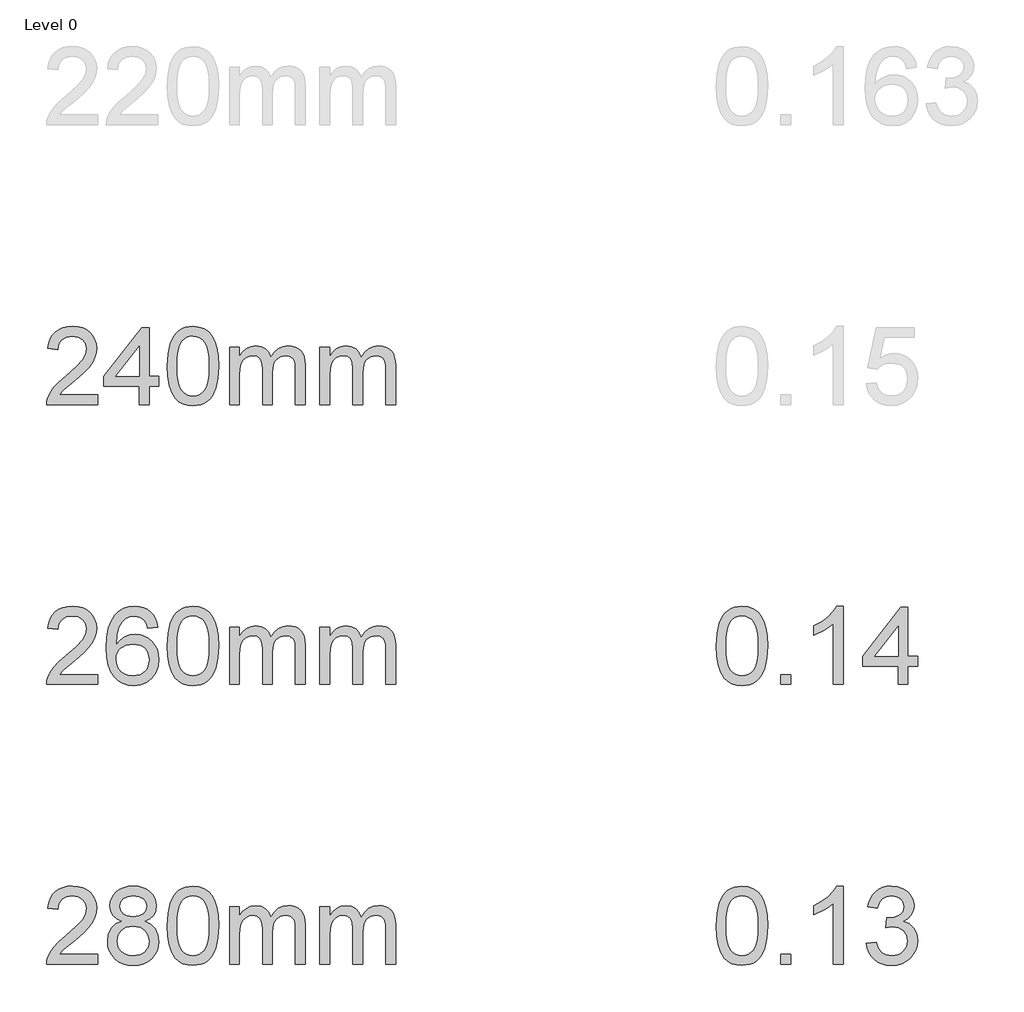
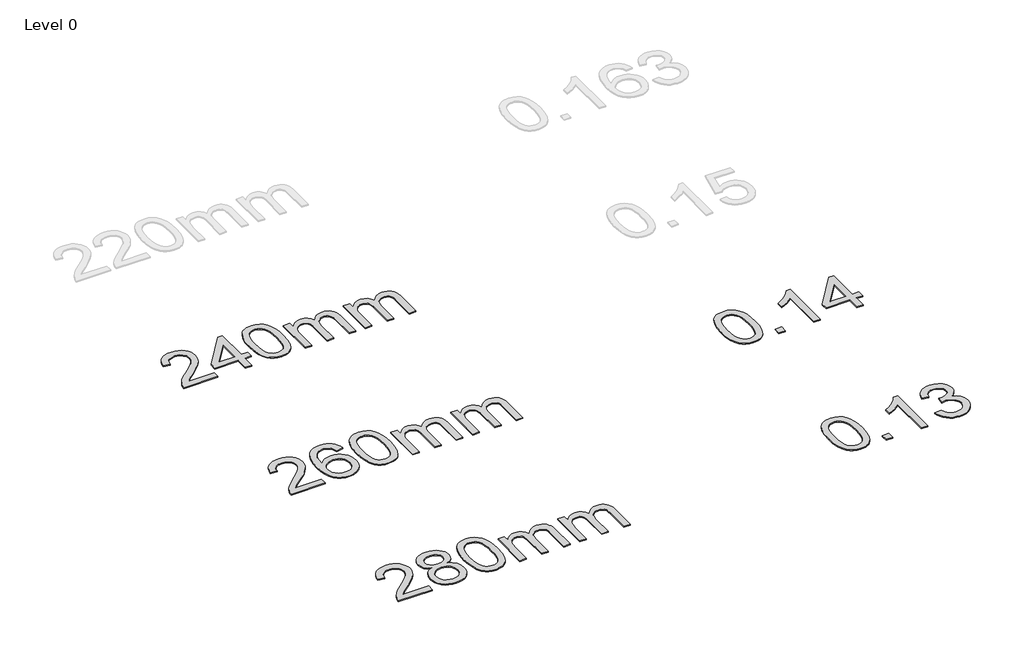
# One storey, part 3 of 11: 5 proxies.
"""IFC4 building model written with IfcOpenShell, lengths in millimetres."""

from ifc_helpers import new_model, si_unit, origin, origin_with_axes, place, context, project, spatial, polyline, outline, extrude, element, save

model = new_model("IFC4")

# Units and contexts
model_context = context("Model", 3, world=origin())
ifc_project = project(units=[si_unit("LENGTHUNIT", "METRE", prefix="MILLI")], contexts=[model_context])

# Site, building, storey
site = spatial("IfcSite", under=ifc_project)
building = spatial("IfcBuilding", under=site)
storey = spatial("IfcBuildingStorey", under=building, Name="Level 0", Elevation=0.0)

# Proxies
placement = place(None, origin())
element("IfcBuildingElementProxy", 1, Name="600mm Arial-400", ObjectType="600mm Arial-400", at=placement, inside=storey, context=model_context, shape_type="SweptSolid", body=[
    extrude(outline(polyline([(34482.8470604, -1447.8371543), (34482.8470604, -1498.0653094), (34219.1492462, -1498.0653094), (34220.2528922, -1480.3824482), (34224.5448488, -1463.4353509), (34236.9424721, -1436.3714988), (34255.1035799, -1410.1169871), (34281.3580916, -1382.6362021), (34318.0359265, -1351.89353), (34372.2249444, -1303.7500396), (34404.7089246, -1268.2126388), (34420.9325206, -1239.3706904), (34426.3403859, -1211.3135569), (34421.2268262, -1186.1626912), (34405.886147, -1165.2547311), (34382.3049111, -1151.1648507), (34352.4696813, -1146.4682239), (34321.138398, -1151.0544861), (34296.7968727, -1164.8132727), (34281.0883115, -1186.6654632), (34275.6559207, -1215.5319371), (34225.4277656, -1209.2534177), (34229.7473134, -1183.3238684), (34237.6046597, -1160.6684689), (34248.9998045, -1141.2872191), (34263.9327478, -1125.1801191), (34282.0601331, -1112.5188471), (34303.0386039, -1103.4750814), (34326.8681601, -1098.048822), (34353.5488018, -1096.2400688), (34380.4685668, -1098.251157), (34404.4268817, -1104.2844218), (34425.4237466, -1114.339863), (34443.4591614, -1128.4174807), (34457.944515, -1145.4749425), (34468.2911961, -1164.4699162), (34474.4992048, -1185.4024017), (34476.568541, -1208.2723991), (34474.3367236, -1232.2950934), (34467.6412713, -1255.9008547), (34455.7586828, -1279.9112863), (34437.965457, -1305.1479911), (34409.6017551, -1335.2775265), (34366.0077387, -1373.9664497), (34308.22574, -1422.2816184), (34285.5642091, -1447.8371543), (34482.8470604, -1447.8371543)])), origin_with_axes(), (0.0, 0.0, 1.0), 8.0),
    extrude(outline(polyline([(34696.3167195, -1498.0653094), (34696.3167195, -1403.8875186), (34514.2396573, -1403.8875186), (34514.2396573, -1353.6593636), (34708.8737582, -1102.5185882), (34746.5448745, -1102.5185882), (34746.5448745, -1353.6593636), (34796.7730296, -1353.6593636), (34796.7730296, -1403.8875186), (34746.5448745, -1403.8875186), (34746.5448745, -1498.0653094), (34696.3167195, -1498.0653094)]), holes=[polyline([(34696.3167195, -1353.6593636), (34696.3167195, -1198.4622125), (34576.0438325, -1353.6593636), (34696.3167195, -1353.6593636)])]), origin_with_axes(), (0.0, 0.0, 1.0), 8.0),
    extrude(outline(polyline([(34840.7226653, -1300.3900507), (34844.413748, -1236.0720152), (34855.486996, -1184.7770023), (34873.8320449, -1145.7201972), (34885.6901078, -1130.4868169), (34899.3385299, -1118.1167848), (34914.8232962, -1108.5457215), (34932.190392, -1101.7092478), (34972.5715724, -1096.2400688), (35003.5227109, -1099.4774304), (35031.2364879, -1109.189515), (35054.4130536, -1124.9961781), (35071.7525583, -1146.5172748), (35084.8491573, -1173.5688642), (35095.297006, -1205.9670052), (35102.1396111, -1247.108475), (35104.4204794, -1300.3900507), (35100.766185, -1364.3402042), (35089.8033015, -1415.5125897), (35071.5686173, -1454.606183), (35059.7381454, -1469.8855486), (35046.0989205, -1482.31996), (35030.5957601, -1491.9554026), (35013.1734819, -1498.8378616), (34972.5715724, -1504.3438288), (34944.9068463, -1501.9525958), (34920.38138, -1494.7788969), (34898.9951733, -1482.8227321), (34880.7482264, -1466.0841013), (34863.2370434, -1435.8258072), (34850.7290556, -1398.1240341), (34843.2242629, -1352.9787819), (34840.7226653, -1300.3900507)]), holes=[polyline([(34890.9508204, -1300.2919488), (34892.4223484, -1343.9564759), (34896.8369323, -1379.3007386), (34904.1945722, -1406.3247369), (34914.4952681, -1425.0284706), (34926.954205, -1437.754122), (34940.786568, -1446.8438729), (34955.9923571, -1452.2977235), (34972.5715724, -1454.1156737), (34989.1507876, -1452.2915922), (35004.3565767, -1446.8193475), (35018.1889398, -1437.6989397), (35030.6478767, -1424.9303688), (35040.9485725, -1406.1959782), (35048.3062124, -1379.1781113), (35052.7207964, -1343.8767682), (35054.1923244, -1300.2919488), (35052.7698473, -1257.7831843), (35048.5024162, -1223.0612553), (35041.3900309, -1196.1261619), (35031.4326916, -1176.977904), (35019.1822212, -1163.629919), (35005.1904426, -1154.0956439), (34989.4573559, -1148.3750789), (34971.9829612, -1146.4682239), (34955.4895851, -1148.1482183), (34940.5413133, -1153.1882017), (34927.138146, -1161.5881739), (34915.280083, -1173.348135), (34904.6360306, -1194.1947814), (34897.033136, -1222.3009658), (34892.4713993, -1257.6666883), (34890.9508204, -1300.2919488)])]), origin_with_axes(), (0.0, 0.0, 1.0), 8.0),
    extrude(outline(polyline([(35160.9271539, -1498.0653094), (35160.9271539, -1202.9748983), (35211.155309, -1202.9748983), (35211.155309, -1251.5353217), (35226.2629962, -1229.2294101), (35245.6871656, -1211.7550153), (35268.7656294, -1200.461038), (35294.8362001, -1196.696379), (35322.7707063, -1200.5346144), (35345.1624571, -1212.0493209), (35361.8888251, -1230.4802088), (35372.8271831, -1255.0669889), (35391.1354437, -1229.529847), (35412.0188783, -1211.2890314), (35435.4774869, -1200.3445421), (35461.5112694, -1196.696379), (35481.6190861, -1198.2138922), (35499.2682249, -1202.7664319), (35514.4586856, -1210.353998), (35527.1904683, -1220.9765906), (35537.2551065, -1234.756837), (35544.4441339, -1251.8173646), (35548.7575503, -1272.1581732), (35550.1953557, -1295.779263), (35550.1953557, -1498.0653094), (35499.9672007, -1498.0653094), (35499.9672007, -1317.3616734), (35498.802241, -1292.3089095), (35495.307362, -1275.4231259), (35488.7590625, -1263.8593685), (35478.4338412, -1254.7726833), (35465.1533012, -1248.8865713), (35449.7390456, -1246.924534), (35422.5280407, -1251.9522546), (35400.3447564, -1267.0354164), (35391.7393834, -1278.6053052), (35385.5926884, -1293.204089), (35380.6753323, -1331.488342), (35380.6753323, -1498.0653094), (35330.4471773, -1498.0653094), (35330.4471773, -1311.7698671), (35327.5409095, -1283.369377), (35318.8221062, -1263.1113418), (35303.481427, -1250.971236), (35280.7095315, -1246.924534), (35261.3589386, -1249.6223353), (35243.5289245, -1257.7157392), (35228.8136447, -1271.008542), (35218.8072545, -1289.3045399), (35213.0682953, -1314.6883975), (35211.155309, -1349.2447796), (35211.155309, -1498.0653094), (35160.9271539, -1498.0653094)])), origin_with_axes(), (0.0, 0.0, 1.0), 8.0),
    extrude(outline(polyline([(35625.5375883, -1498.0653094), (35625.5375883, -1202.9748983), (35675.7657434, -1202.9748983), (35675.7657434, -1251.5353217), (35690.8734307, -1229.2294101), (35710.2976, -1211.7550153), (35733.3760639, -1200.461038), (35759.4466346, -1196.696379), (35787.3811408, -1200.5346144), (35809.7728915, -1212.0493209), (35826.4992596, -1230.4802088), (35837.4376176, -1255.0669889), (35855.7458782, -1229.529847), (35876.6293128, -1211.2890314), (35900.0879213, -1200.3445421), (35926.1217039, -1196.696379), (35946.2295206, -1198.2138922), (35963.8786593, -1202.7664319), (35979.06912, -1210.353998), (35991.8009027, -1220.9765906), (36001.865541, -1234.756837), (36009.0545683, -1251.8173646), (36013.3679847, -1272.1581732), (36014.8057902, -1295.779263), (36014.8057902, -1498.0653094), (35964.5776351, -1498.0653094), (35964.5776351, -1317.3616734), (35963.4126754, -1292.3089095), (35959.9177965, -1275.4231259), (35953.369497, -1263.8593685), (35943.0442756, -1254.7726833), (35929.7637356, -1248.8865713), (35914.34948, -1246.924534), (35887.1384751, -1251.9522546), (35864.9551908, -1267.0354164), (35856.3498178, -1278.6053052), (35850.2031228, -1293.204089), (35845.2857668, -1331.488342), (35845.2857668, -1498.0653094), (35795.0576117, -1498.0653094), (35795.0576117, -1311.7698671), (35792.151344, -1283.369377), (35783.4325407, -1263.1113418), (35768.0918615, -1250.971236), (35745.319966, -1246.924534), (35725.969373, -1249.6223353), (35708.139359, -1257.7157392), (35693.4240792, -1271.008542), (35683.4176889, -1289.3045399), (35677.6787298, -1314.6883975), (35675.7657434, -1349.2447796), (35675.7657434, -1498.0653094), (35625.5375883, -1498.0653094)])), origin_with_axes(), (0.0, 0.0, 1.0), 8.0),
])
element("IfcBuildingElementProxy", 2, Name="600mm Arial-400", ObjectType="600mm Arial-400", at=placement, inside=storey, context=model_context, shape_type="SweptSolid", body=[
    extrude(outline(polyline([(34482.8470604, -2887.8371543), (34482.8470604, -2938.0653094), (34219.1492462, -2938.0653094), (34220.2528922, -2920.3824482), (34224.5448488, -2903.4353509), (34236.9424721, -2876.3714988), (34255.1035799, -2850.1169871), (34281.3580916, -2822.6362021), (34318.0359265, -2791.89353), (34372.2249444, -2743.7500396), (34404.7089246, -2708.2126388), (34420.9325206, -2679.3706904), (34426.3403859, -2651.3135569), (34421.2268262, -2626.1626912), (34405.886147, -2605.2547311), (34382.3049111, -2591.1648507), (34352.4696813, -2586.4682239), (34321.138398, -2591.0544861), (34296.7968727, -2604.8132727), (34281.0883115, -2626.6654632), (34275.6559207, -2655.5319371), (34225.4277656, -2649.2534177), (34229.7473134, -2623.3238684), (34237.6046597, -2600.6684689), (34248.9998045, -2581.2872191), (34263.9327478, -2565.1801191), (34282.0601331, -2552.5188471), (34303.0386039, -2543.4750814), (34326.8681601, -2538.048822), (34353.5488018, -2536.2400688), (34380.4685668, -2538.251157), (34404.4268817, -2544.2844218), (34425.4237466, -2554.339863), (34443.4591614, -2568.4174807), (34457.944515, -2585.4749425), (34468.2911961, -2604.4699162), (34474.4992048, -2625.4024017), (34476.568541, -2648.2723991), (34474.3367236, -2672.2950934), (34467.6412713, -2695.9008547), (34455.7586828, -2719.9112863), (34437.965457, -2745.1479911), (34409.6017551, -2775.2775265), (34366.0077387, -2813.9664497), (34308.22574, -2862.2816184), (34285.5642091, -2887.8371543), (34482.8470604, -2887.8371543)])), origin_with_axes(), (0.0, 0.0, 1.0), 8.0),
    extrude(outline(polyline([(34790.4945102, -2642.9748983), (34740.2663551, -2649.2534177), (34732.1729513, -2624.3600694), (34721.2345933, -2607.3639212), (34698.450435, -2591.6921482), (34670.9083363, -2586.4682239), (34647.5600924, -2589.5093817), (34625.5852745, -2598.6328552), (34606.7129282, -2617.8485581), (34591.2986726, -2644.2992735), (34580.8876121, -2681.7128724), (34577.0248512, -2733.8172257), (34597.1725218, -2710.3095662), (34621.3178434, -2693.7426137), (34648.1119154, -2683.9201644), (34676.2058371, -2680.6460146), (34700.3388959, -2682.8839635), (34722.6080194, -2689.5978099), (34743.0132074, -2700.7875539), (34761.5544599, -2716.4531955), (34776.9625842, -2735.662767), (34787.9683872, -2757.4843007), (34794.571869, -2781.9177966), (34796.7730296, -2808.9632546), (34792.6282258, -2844.929851), (34780.1938144, -2878.2722225), (34760.4998649, -2906.5500852), (34734.576447, -2927.3231551), (34703.600783, -2940.0886604), (34668.7500953, -2944.3438288), (34638.8075666, -2941.5234002), (34611.7651742, -2933.0621143), (34587.6229183, -2918.9599711), (34566.3807988, -2899.2169707), (34549.0627538, -2872.9992472), (34536.6927217, -2839.4729347), (34529.2707025, -2798.6380332), (34526.7966961, -2750.4945428), (34529.5435483, -2696.5201227), (34537.784105, -2650.4551656), (34551.5183662, -2612.2996713), (34570.7463318, -2582.0536399), (34591.5868468, -2562.0102026), (34615.7505625, -2547.6934616), (34643.2374789, -2539.103417), (34674.047596, -2536.2400688), (34697.1812421, -2538.0120338), (34718.119859, -2543.3279286), (34736.8634467, -2552.1877533), (34753.4120051, -2564.5915079), (34767.3179445, -2580.1222595), (34778.1336752, -2598.3630751), (34785.8591971, -2619.3139547), (34790.4945102, -2642.9748983)]), holes=[polyline([(34577.0248512, -2808.1784396), (34579.9311189, -2830.4353004), (34588.6499222, -2851.6866169), (34602.1879796, -2869.9580894), (34619.5520098, -2883.2754176), (34640.5090208, -2891.4056097), (34664.8260207, -2894.1156737), (34697.9721884, -2888.4993419), (34711.8873249, -2881.4789272), (34724.0304964, -2871.6503465), (34733.8805368, -2859.4121388), (34740.91628, -2845.1628429), (34746.5448745, -2810.6309863), (34740.9898564, -2777.4848185), (34734.0460837, -2763.8639876), (34724.324802, -2752.2113254), (34712.1448423, -2742.8763198), (34697.8250356, -2736.2084587), (34662.7658815, -2730.8741697), (34629.6687647, -2736.2084587), (34601.9917759, -2752.2113254), (34591.0687463, -2763.7107035), (34583.2665823, -2776.8716819), (34578.5852839, -2791.6942606), (34577.0248512, -2808.1784396)])]), origin_with_axes(), (0.0, 0.0, 1.0), 8.0),
    extrude(outline(polyline([(34840.7226653, -2740.3900507), (34844.413748, -2676.0720152), (34855.486996, -2624.7770023), (34873.8320449, -2585.7201972), (34885.6901078, -2570.4868169), (34899.3385299, -2558.1167848), (34914.8232962, -2548.5457215), (34932.190392, -2541.7092478), (34972.5715724, -2536.2400688), (35003.5227109, -2539.4774304), (35031.2364879, -2549.189515), (35054.4130536, -2564.9961781), (35071.7525583, -2586.5172748), (35084.8491573, -2613.5688642), (35095.297006, -2645.9670052), (35102.1396111, -2687.108475), (35104.4204794, -2740.3900507), (35100.766185, -2804.3402042), (35089.8033015, -2855.5125897), (35071.5686173, -2894.606183), (35059.7381454, -2909.8855486), (35046.0989205, -2922.31996), (35030.5957601, -2931.9554026), (35013.1734819, -2938.8378616), (34972.5715724, -2944.3438288), (34944.9068463, -2941.9525958), (34920.38138, -2934.7788969), (34898.9951733, -2922.8227321), (34880.7482264, -2906.0841013), (34863.2370434, -2875.8258072), (34850.7290556, -2838.1240341), (34843.2242629, -2792.9787819), (34840.7226653, -2740.3900507)]), holes=[polyline([(34890.9508204, -2740.2919488), (34892.4223484, -2783.9564759), (34896.8369323, -2819.3007386), (34904.1945722, -2846.3247369), (34914.4952681, -2865.0284706), (34926.954205, -2877.754122), (34940.786568, -2886.8438729), (34955.9923571, -2892.2977235), (34972.5715724, -2894.1156737), (34989.1507876, -2892.2915922), (35004.3565767, -2886.8193475), (35018.1889398, -2877.6989397), (35030.6478767, -2864.9303688), (35040.9485725, -2846.1959782), (35048.3062124, -2819.1781113), (35052.7207964, -2783.8767682), (35054.1923244, -2740.2919488), (35052.7698473, -2697.7831843), (35048.5024162, -2663.0612553), (35041.3900309, -2636.1261619), (35031.4326916, -2616.977904), (35019.1822212, -2603.629919), (35005.1904426, -2594.0956439), (34989.4573559, -2588.3750789), (34971.9829612, -2586.4682239), (34955.4895851, -2588.1482183), (34940.5413133, -2593.1882017), (34927.138146, -2601.5881739), (34915.280083, -2613.348135), (34904.6360306, -2634.1947814), (34897.033136, -2662.3009658), (34892.4713993, -2697.6666883), (34890.9508204, -2740.2919488)])]), origin_with_axes(), (0.0, 0.0, 1.0), 8.0),
    extrude(outline(polyline([(35160.9271539, -2938.0653094), (35160.9271539, -2642.9748983), (35211.155309, -2642.9748983), (35211.155309, -2691.5353217), (35226.2629962, -2669.2294101), (35245.6871656, -2651.7550153), (35268.7656294, -2640.461038), (35294.8362001, -2636.696379), (35322.7707063, -2640.5346144), (35345.1624571, -2652.0493209), (35361.8888251, -2670.4802088), (35372.8271831, -2695.0669889), (35391.1354437, -2669.529847), (35412.0188783, -2651.2890314), (35435.4774869, -2640.3445421), (35461.5112694, -2636.696379), (35481.6190861, -2638.2138922), (35499.2682249, -2642.7664319), (35514.4586856, -2650.353998), (35527.1904683, -2660.9765906), (35537.2551065, -2674.756837), (35544.4441339, -2691.8173646), (35548.7575503, -2712.1581732), (35550.1953557, -2735.779263), (35550.1953557, -2938.0653094), (35499.9672007, -2938.0653094), (35499.9672007, -2757.3616734), (35498.802241, -2732.3089095), (35495.307362, -2715.4231259), (35488.7590625, -2703.8593685), (35478.4338412, -2694.7726833), (35465.1533012, -2688.8865713), (35449.7390456, -2686.924534), (35422.5280407, -2691.9522546), (35400.3447564, -2707.0354164), (35391.7393834, -2718.6053052), (35385.5926884, -2733.204089), (35380.6753323, -2771.488342), (35380.6753323, -2938.0653094), (35330.4471773, -2938.0653094), (35330.4471773, -2751.7698671), (35327.5409095, -2723.369377), (35318.8221062, -2703.1113418), (35303.481427, -2690.971236), (35280.7095315, -2686.924534), (35261.3589386, -2689.6223353), (35243.5289245, -2697.7157392), (35228.8136447, -2711.008542), (35218.8072545, -2729.3045399), (35213.0682953, -2754.6883975), (35211.155309, -2789.2447796), (35211.155309, -2938.0653094), (35160.9271539, -2938.0653094)])), origin_with_axes(), (0.0, 0.0, 1.0), 8.0),
    extrude(outline(polyline([(35625.5375883, -2938.0653094), (35625.5375883, -2642.9748983), (35675.7657434, -2642.9748983), (35675.7657434, -2691.5353217), (35690.8734307, -2669.2294101), (35710.2976, -2651.7550153), (35733.3760639, -2640.461038), (35759.4466346, -2636.696379), (35787.3811408, -2640.5346144), (35809.7728915, -2652.0493209), (35826.4992596, -2670.4802088), (35837.4376176, -2695.0669889), (35855.7458782, -2669.529847), (35876.6293128, -2651.2890314), (35900.0879213, -2640.3445421), (35926.1217039, -2636.696379), (35946.2295206, -2638.2138922), (35963.8786593, -2642.7664319), (35979.06912, -2650.353998), (35991.8009027, -2660.9765906), (36001.865541, -2674.756837), (36009.0545683, -2691.8173646), (36013.3679847, -2712.1581732), (36014.8057902, -2735.779263), (36014.8057902, -2938.0653094), (35964.5776351, -2938.0653094), (35964.5776351, -2757.3616734), (35963.4126754, -2732.3089095), (35959.9177965, -2715.4231259), (35953.369497, -2703.8593685), (35943.0442756, -2694.7726833), (35929.7637356, -2688.8865713), (35914.34948, -2686.924534), (35887.1384751, -2691.9522546), (35864.9551908, -2707.0354164), (35856.3498178, -2718.6053052), (35850.2031228, -2733.204089), (35845.2857668, -2771.488342), (35845.2857668, -2938.0653094), (35795.0576117, -2938.0653094), (35795.0576117, -2751.7698671), (35792.151344, -2723.369377), (35783.4325407, -2703.1113418), (35768.0918615, -2690.971236), (35745.319966, -2686.924534), (35725.969373, -2689.6223353), (35708.139359, -2697.7157392), (35693.4240792, -2711.008542), (35683.4176889, -2729.3045399), (35677.6787298, -2754.6883975), (35675.7657434, -2789.2447796), (35675.7657434, -2938.0653094), (35625.5375883, -2938.0653094)])), origin_with_axes(), (0.0, 0.0, 1.0), 8.0),
])
element("IfcBuildingElementProxy", 3, Name="600mm Arial-400", ObjectType="600mm Arial-400", at=placement, inside=storey, context=model_context, shape_type="SweptSolid", body=[
    extrude(outline(polyline([(34482.8470604, -4327.8371543), (34482.8470604, -4378.0653094), (34219.1492462, -4378.0653094), (34220.2528922, -4360.3824482), (34224.5448488, -4343.4353509), (34236.9424721, -4316.3714988), (34255.1035799, -4290.1169871), (34281.3580916, -4262.6362021), (34318.0359265, -4231.89353), (34372.2249444, -4183.7500396), (34404.7089246, -4148.2126388), (34420.9325206, -4119.3706904), (34426.3403859, -4091.3135569), (34421.2268262, -4066.1626912), (34405.886147, -4045.2547311), (34382.3049111, -4031.1648507), (34352.4696813, -4026.4682239), (34321.138398, -4031.0544861), (34296.7968727, -4044.8132727), (34281.0883115, -4066.6654632), (34275.6559207, -4095.5319371), (34225.4277656, -4089.2534177), (34229.7473134, -4063.3238684), (34237.6046597, -4040.6684689), (34248.9998045, -4021.2872191), (34263.9327478, -4005.1801191), (34282.0601331, -3992.5188471), (34303.0386039, -3983.4750814), (34326.8681601, -3978.048822), (34353.5488018, -3976.2400688), (34380.4685668, -3978.251157), (34404.4268817, -3984.2844218), (34425.4237466, -3994.339863), (34443.4591614, -4008.4174807), (34457.944515, -4025.4749425), (34468.2911961, -4044.4699162), (34474.4992048, -4065.4024017), (34476.568541, -4088.2723991), (34474.3367236, -4112.2950934), (34467.6412713, -4135.9008547), (34455.7586828, -4159.9112863), (34437.965457, -4185.1479911), (34409.6017551, -4215.2775265), (34366.0077387, -4253.9664497), (34308.22574, -4302.2816184), (34285.5642091, -4327.8371543), (34482.8470604, -4327.8371543)])), origin_with_axes(), (0.0, 0.0, 1.0), 8.0),
    extrude(outline(polyline([(34606.259207, -4156.7475011), (34579.3670332, -4143.5037493), (34560.4946868, -4125.5511079), (34549.3478624, -4103.257459), (34545.6322542, -4076.9906846), (34547.6556052, -4056.5057888), (34553.7256581, -4037.7254129), (34563.842413, -4020.649557), (34578.0058698, -4005.278221), (34595.5354469, -3992.5740294), (34615.7505625, -3983.4996068), (34638.6512167, -3978.0549533), (34664.2374095, -3976.2400688), (34689.9462296, -3978.0978729), (34713.018562, -3983.6712851), (34733.4544069, -3992.9603055), (34751.2537641, -4005.964934), (34765.6747383, -4021.636707), (34775.9754341, -4038.9271608), (34782.1558517, -4057.8362953), (34784.2159908, -4078.3641107), (34780.5494336, -4103.7847565), (34769.549762, -4125.6982607), (34751.0943485, -4143.5405375), (34725.060566, -4156.7475011), (34755.9749163, -4172.6767915), (34778.4770317, -4196.1354001), (34792.1990301, -4225.9951553), (34796.7730296, -4261.1278859), (34794.504424, -4286.1806497), (34787.6986071, -4309.148749), (34776.3555789, -4330.0321836), (34760.4753394, -4348.8309535), (34740.8917545, -4364.3678365), (34718.4386901, -4375.46561), (34693.1161461, -4382.1242741), (34664.9241225, -4384.3438288), (34636.732099, -4382.115077), (34611.409555, -4375.4288218), (34588.9564905, -4364.285063), (34569.3729057, -4348.6838007), (34553.4926662, -4329.7532064), (34542.149638, -4308.6214515), (34535.3438211, -4285.2885359), (34533.0752155, -4259.7544598), (34537.8331559, -4223.2605658), (34552.1069773, -4193.241395), (34575.1609157, -4170.7270169), (34606.259207, -4156.7475011)]), holes=[polyline([(34595.8604093, -4078.4622125), (34600.3117814, -4100.3879794), (34613.6658979, -4117.8991624), (34635.5303511, -4129.3770807), (34665.5127337, -4133.2030534), (34694.7961405, -4129.4016061), (34716.3295, -4117.9972643), (34729.5732518, -4101.0746925), (34733.9878358, -4080.7185554), (34729.426099, -4059.5898662), (34715.7408888, -4042.1154714), (34693.9132238, -4030.3800358), (34664.9241225, -4026.4682239), (34635.7510803, -4030.2941966), (34613.9602035, -4041.7721149), (34600.3853578, -4058.5965848), (34595.8604093, -4078.4622125)]), polyline([(34583.3033705, -4257.9886262), (34585.4002979, -4277.2043291), (34591.69108, -4295.8068953), (34603.3038883, -4312.0304913), (34621.3668943, -4324.1092834), (34642.9983556, -4331.6140762), (34665.31653, -4334.1156737), (34699.5050301, -4328.8549612), (34713.3987068, -4322.2790705), (34725.1586679, -4313.0728236), (34741.1983229, -4289.1727566), (34746.5448745, -4259.558256), (34741.0266446, -4229.4409834), (34724.4719548, -4205.0136189), (34712.3931626, -4195.5713143), (34698.2297058, -4188.8268111), (34663.6487983, -4183.4312085), (34629.9385448, -4188.7532347), (34616.201218, -4195.4057674), (34604.5424244, -4204.7193133), (34588.613134, -4228.6806939), (34583.3033705, -4257.9886262)])]), origin_with_axes(), (0.0, 0.0, 1.0), 8.0),
    extrude(outline(polyline([(34840.7226653, -4180.3900507), (34844.413748, -4116.0720152), (34855.486996, -4064.7770023), (34873.8320449, -4025.7201972), (34885.6901078, -4010.4868169), (34899.3385299, -3998.1167848), (34914.8232962, -3988.5457215), (34932.190392, -3981.7092478), (34972.5715724, -3976.2400688), (35003.5227109, -3979.4774304), (35031.2364879, -3989.189515), (35054.4130536, -4004.9961781), (35071.7525583, -4026.5172748), (35084.8491573, -4053.5688642), (35095.297006, -4085.9670052), (35102.1396111, -4127.108475), (35104.4204794, -4180.3900507), (35100.766185, -4244.3402042), (35089.8033015, -4295.5125897), (35071.5686173, -4334.606183), (35059.7381454, -4349.8855486), (35046.0989205, -4362.31996), (35030.5957601, -4371.9554026), (35013.1734819, -4378.8378616), (34972.5715724, -4384.3438288), (34944.9068463, -4381.9525958), (34920.38138, -4374.7788969), (34898.9951733, -4362.8227321), (34880.7482264, -4346.0841013), (34863.2370434, -4315.8258072), (34850.7290556, -4278.1240341), (34843.2242629, -4232.9787819), (34840.7226653, -4180.3900507)]), holes=[polyline([(34890.9508204, -4180.2919488), (34892.4223484, -4223.9564759), (34896.8369323, -4259.3007386), (34904.1945722, -4286.3247369), (34914.4952681, -4305.0284706), (34926.954205, -4317.754122), (34940.786568, -4326.8438729), (34955.9923571, -4332.2977235), (34972.5715724, -4334.1156737), (34989.1507876, -4332.2915922), (35004.3565767, -4326.8193475), (35018.1889398, -4317.6989397), (35030.6478767, -4304.9303688), (35040.9485725, -4286.1959782), (35048.3062124, -4259.1781113), (35052.7207964, -4223.8767682), (35054.1923244, -4180.2919488), (35052.7698473, -4137.7831843), (35048.5024162, -4103.0612553), (35041.3900309, -4076.1261619), (35031.4326916, -4056.977904), (35019.1822212, -4043.629919), (35005.1904426, -4034.0956439), (34989.4573559, -4028.3750789), (34971.9829612, -4026.4682239), (34955.4895851, -4028.1482183), (34940.5413133, -4033.1882017), (34927.138146, -4041.5881739), (34915.280083, -4053.348135), (34904.6360306, -4074.1947814), (34897.033136, -4102.3009658), (34892.4713993, -4137.6666883), (34890.9508204, -4180.2919488)])]), origin_with_axes(), (0.0, 0.0, 1.0), 8.0),
    extrude(outline(polyline([(35160.9271539, -4378.0653094), (35160.9271539, -4082.9748983), (35211.155309, -4082.9748983), (35211.155309, -4131.5353217), (35226.2629962, -4109.2294101), (35245.6871656, -4091.7550153), (35268.7656294, -4080.461038), (35294.8362001, -4076.696379), (35322.7707063, -4080.5346144), (35345.1624571, -4092.0493209), (35361.8888251, -4110.4802088), (35372.8271831, -4135.0669889), (35391.1354437, -4109.529847), (35412.0188783, -4091.2890314), (35435.4774869, -4080.3445421), (35461.5112694, -4076.696379), (35481.6190861, -4078.2138922), (35499.2682249, -4082.7664319), (35514.4586856, -4090.353998), (35527.1904683, -4100.9765906), (35537.2551065, -4114.756837), (35544.4441339, -4131.8173646), (35548.7575503, -4152.1581732), (35550.1953557, -4175.779263), (35550.1953557, -4378.0653094), (35499.9672007, -4378.0653094), (35499.9672007, -4197.3616734), (35498.802241, -4172.3089095), (35495.307362, -4155.4231259), (35488.7590625, -4143.8593685), (35478.4338412, -4134.7726833), (35465.1533012, -4128.8865713), (35449.7390456, -4126.924534), (35422.5280407, -4131.9522546), (35400.3447564, -4147.0354164), (35391.7393834, -4158.6053052), (35385.5926884, -4173.204089), (35380.6753323, -4211.488342), (35380.6753323, -4378.0653094), (35330.4471773, -4378.0653094), (35330.4471773, -4191.7698671), (35327.5409095, -4163.369377), (35318.8221062, -4143.1113418), (35303.481427, -4130.971236), (35280.7095315, -4126.924534), (35261.3589386, -4129.6223353), (35243.5289245, -4137.7157392), (35228.8136447, -4151.008542), (35218.8072545, -4169.3045399), (35213.0682953, -4194.6883975), (35211.155309, -4229.2447796), (35211.155309, -4378.0653094), (35160.9271539, -4378.0653094)])), origin_with_axes(), (0.0, 0.0, 1.0), 8.0),
    extrude(outline(polyline([(35625.5375883, -4378.0653094), (35625.5375883, -4082.9748983), (35675.7657434, -4082.9748983), (35675.7657434, -4131.5353217), (35690.8734307, -4109.2294101), (35710.2976, -4091.7550153), (35733.3760639, -4080.461038), (35759.4466346, -4076.696379), (35787.3811408, -4080.5346144), (35809.7728915, -4092.0493209), (35826.4992596, -4110.4802088), (35837.4376176, -4135.0669889), (35855.7458782, -4109.529847), (35876.6293128, -4091.2890314), (35900.0879213, -4080.3445421), (35926.1217039, -4076.696379), (35946.2295206, -4078.2138922), (35963.8786593, -4082.7664319), (35979.06912, -4090.353998), (35991.8009027, -4100.9765906), (36001.865541, -4114.756837), (36009.0545683, -4131.8173646), (36013.3679847, -4152.1581732), (36014.8057902, -4175.779263), (36014.8057902, -4378.0653094), (35964.5776351, -4378.0653094), (35964.5776351, -4197.3616734), (35963.4126754, -4172.3089095), (35959.9177965, -4155.4231259), (35953.369497, -4143.8593685), (35943.0442756, -4134.7726833), (35929.7637356, -4128.8865713), (35914.34948, -4126.924534), (35887.1384751, -4131.9522546), (35864.9551908, -4147.0354164), (35856.3498178, -4158.6053052), (35850.2031228, -4173.204089), (35845.2857668, -4211.488342), (35845.2857668, -4378.0653094), (35795.0576117, -4378.0653094), (35795.0576117, -4191.7698671), (35792.151344, -4163.369377), (35783.4325407, -4143.1113418), (35768.0918615, -4130.971236), (35745.319966, -4126.924534), (35725.969373, -4129.6223353), (35708.139359, -4137.7157392), (35693.4240792, -4151.008542), (35683.4176889, -4169.3045399), (35677.6787298, -4194.6883975), (35675.7657434, -4229.2447796), (35675.7657434, -4378.0653094), (35625.5375883, -4378.0653094)])), origin_with_axes(), (0.0, 0.0, 1.0), 8.0),
])
element("IfcBuildingElementProxy", 4, Name="600mm Arial-400", ObjectType="600mm Arial-400", at=placement, inside=storey, context=model_context, shape_type="SweptSolid", body=[
    extrude(outline(polyline([(37665.4277656, -2740.3900507), (37669.1188483, -2676.0720152), (37680.1920964, -2624.7770023), (37698.5371452, -2585.7201972), (37710.3952082, -2570.4868169), (37724.0436302, -2558.1167848), (37739.5283965, -2548.5457215), (37756.8954924, -2541.7092478), (37797.2766727, -2536.2400688), (37828.2278112, -2539.4774304), (37855.9415882, -2549.189515), (37879.1181539, -2564.9961781), (37896.4576586, -2586.5172748), (37909.5542576, -2613.5688642), (37920.0021063, -2645.9670052), (37926.8447114, -2687.108475), (37929.1255798, -2740.3900507), (37925.4712853, -2804.3402042), (37914.5084018, -2855.5125897), (37896.2737176, -2894.606183), (37884.4432458, -2909.8855486), (37870.8040208, -2922.31996), (37855.3008604, -2931.9554026), (37837.8785822, -2938.8378616), (37797.2766727, -2944.3438288), (37769.6119467, -2941.9525958), (37745.0864803, -2934.7788969), (37723.7002737, -2922.8227321), (37705.4533267, -2906.0841013), (37687.9421437, -2875.8258072), (37675.4341559, -2838.1240341), (37667.9293632, -2792.9787819), (37665.4277656, -2740.3900507)]), holes=[polyline([(37715.6559207, -2740.2919488), (37717.1274487, -2783.9564759), (37721.5420326, -2819.3007386), (37728.8996725, -2846.3247369), (37739.2003684, -2865.0284706), (37751.6593053, -2877.754122), (37765.4916683, -2886.8438729), (37780.6974575, -2892.2977235), (37797.2766727, -2894.1156737), (37813.8558879, -2892.2915922), (37829.0616771, -2886.8193475), (37842.8940401, -2877.6989397), (37855.352977, -2864.9303688), (37865.6536729, -2846.1959782), (37873.0113128, -2819.1781113), (37877.4258967, -2783.8767682), (37878.8974247, -2740.2919488), (37877.4749476, -2697.7831843), (37873.2075165, -2663.0612553), (37866.0951313, -2636.1261619), (37856.1377919, -2616.977904), (37843.8873215, -2603.629919), (37829.8955429, -2594.0956439), (37814.1624563, -2588.3750789), (37796.6880615, -2586.4682239), (37780.1946854, -2588.1482183), (37765.2464137, -2593.1882017), (37751.8432463, -2601.5881739), (37739.9851833, -2613.348135), (37729.3411309, -2634.1947814), (37721.7382364, -2662.3009658), (37717.1764996, -2697.6666883), (37715.6559207, -2740.2919488)])]), origin_with_axes(), (0.0, 0.0, 1.0), 8.0),
    extrude(outline(polyline([(37998.189293, -2938.0653094), (37998.189293, -2887.8371543), (38048.4174481, -2887.8371543), (38048.4174481, -2938.0653094), (37998.189293, -2938.0653094)])), origin_with_axes(), (0.0, 0.0, 1.0), 8.0),
    extrude(outline(polyline([(38318.3937816, -2938.0653094), (38268.1656265, -2938.0653094), (38268.1656265, -2624.9241551), (38247.1963528, -2641.8835151), (38220.5862218, -2658.8183496), (38167.7093164, -2684.1776818), (38167.7093164, -2636.696379), (38207.158529, -2615.2365959), (38241.3347663, -2589.7055854), (38268.2759911, -2562.5558942), (38286.020166, -2536.2400688), (38318.3937816, -2536.2400688), (38318.3937816, -2938.0653094)])), origin_with_axes(), (0.0, 0.0, 1.0), 8.0),
    extrude(outline(polyline([(38600.9271539, -2938.0653094), (38600.9271539, -2843.8875186), (38418.8500918, -2843.8875186), (38418.8500918, -2793.6593636), (38613.4841927, -2542.5185882), (38651.155309, -2542.5185882), (38651.155309, -2793.6593636), (38701.383464, -2793.6593636), (38701.383464, -2843.8875186), (38651.155309, -2843.8875186), (38651.155309, -2938.0653094), (38600.9271539, -2938.0653094)]), holes=[polyline([(38600.9271539, -2793.6593636), (38600.9271539, -2638.4622125), (38480.6542669, -2793.6593636), (38600.9271539, -2793.6593636)])]), origin_with_axes(), (0.0, 0.0, 1.0), 8.0),
])
element("IfcBuildingElementProxy", 5, Name="600mm Arial-400", ObjectType="600mm Arial-400", at=placement, inside=storey, context=model_context, shape_type="SweptSolid", body=[
    extrude(outline(polyline([(37665.4277656, -4180.3900507), (37669.1188483, -4116.0720152), (37680.1920964, -4064.7770023), (37698.5371452, -4025.7201972), (37710.3952082, -4010.4868169), (37724.0436302, -3998.1167848), (37739.5283965, -3988.5457215), (37756.8954924, -3981.7092478), (37797.2766727, -3976.2400688), (37828.2278112, -3979.4774304), (37855.9415882, -3989.189515), (37879.1181539, -4004.9961781), (37896.4576586, -4026.5172748), (37909.5542576, -4053.5688642), (37920.0021063, -4085.9670052), (37926.8447114, -4127.108475), (37929.1255798, -4180.3900507), (37925.4712853, -4244.3402042), (37914.5084018, -4295.5125897), (37896.2737176, -4334.606183), (37884.4432458, -4349.8855486), (37870.8040208, -4362.31996), (37855.3008604, -4371.9554026), (37837.8785822, -4378.8378616), (37797.2766727, -4384.3438288), (37769.6119467, -4381.9525958), (37745.0864803, -4374.7788969), (37723.7002737, -4362.8227321), (37705.4533267, -4346.0841013), (37687.9421437, -4315.8258072), (37675.4341559, -4278.1240341), (37667.9293632, -4232.9787819), (37665.4277656, -4180.3900507)]), holes=[polyline([(37715.6559207, -4180.2919488), (37717.1274487, -4223.9564759), (37721.5420326, -4259.3007386), (37728.8996725, -4286.3247369), (37739.2003684, -4305.0284706), (37751.6593053, -4317.754122), (37765.4916683, -4326.8438729), (37780.6974575, -4332.2977235), (37797.2766727, -4334.1156737), (37813.8558879, -4332.2915922), (37829.0616771, -4326.8193475), (37842.8940401, -4317.6989397), (37855.352977, -4304.9303688), (37865.6536729, -4286.1959782), (37873.0113128, -4259.1781113), (37877.4258967, -4223.8767682), (37878.8974247, -4180.2919488), (37877.4749476, -4137.7831843), (37873.2075165, -4103.0612553), (37866.0951313, -4076.1261619), (37856.1377919, -4056.977904), (37843.8873215, -4043.629919), (37829.8955429, -4034.0956439), (37814.1624563, -4028.3750789), (37796.6880615, -4026.4682239), (37780.1946854, -4028.1482183), (37765.2464137, -4033.1882017), (37751.8432463, -4041.5881739), (37739.9851833, -4053.348135), (37729.3411309, -4074.1947814), (37721.7382364, -4102.3009658), (37717.1764996, -4137.6666883), (37715.6559207, -4180.2919488)])]), origin_with_axes(), (0.0, 0.0, 1.0), 8.0),
    extrude(outline(polyline([(37998.189293, -4378.0653094), (37998.189293, -4327.8371543), (38048.4174481, -4327.8371543), (38048.4174481, -4378.0653094), (37998.189293, -4378.0653094)])), origin_with_axes(), (0.0, 0.0, 1.0), 8.0),
    extrude(outline(polyline([(38318.3937816, -4378.0653094), (38268.1656265, -4378.0653094), (38268.1656265, -4064.9241551), (38247.1963528, -4081.8835151), (38220.5862218, -4098.8183496), (38167.7093164, -4124.1776818), (38167.7093164, -4076.696379), (38207.158529, -4055.2365959), (38241.3347663, -4029.7055854), (38268.2759911, -4002.5558942), (38286.020166, -3976.2400688), (38318.3937816, -3976.2400688), (38318.3937816, -4378.0653094)])), origin_with_axes(), (0.0, 0.0, 1.0), 8.0),
    extrude(outline(polyline([(38437.6856499, -4271.3304799), (38487.913805, -4265.0519605), (38499.1587313, -4296.6162357), (38515.6275819, -4317.9288659), (38538.1296973, -4330.0689718), (38567.4744178, -4334.1156737), (38601.9081726, -4328.5483929), (38616.181994, -4321.5892918), (38628.4937781, -4311.8465503), (38645.4899262, -4286.9286765), (38651.155309, -4256.7133019), (38645.5389772, -4228.030769), (38628.6899818, -4204.7683642), (38603.1834968, -4189.3541086), (38571.5946961, -4184.2160234), (38536.3761265, -4189.7097279), (38541.9679328, -4139.4815728), (38550.0122858, -4140.070184), (38580.105033, -4136.4649404), (38607.0094696, -4125.6492098), (38618.0827176, -4117.4699668), (38625.9921805, -4107.3532119), (38630.7378582, -4095.2989452), (38632.3197508, -4081.3071666), (38627.7334886, -4059.6143916), (38613.974702, -4042.0173695), (38592.9809028, -4030.3555103), (38566.6896029, -4026.4682239), (38540.349252, -4030.3922985), (38518.8158926, -4042.1645223), (38503.0950686, -4061.7848954), (38494.1923244, -4089.2534177), (38443.9641693, -4082.9748983), (38449.9177262, -4058.9951236), (38458.7530255, -4037.8725657), (38470.470067, -4019.6072247), (38485.0688509, -4004.1991004), (38502.0895245, -3991.9670241), (38521.0722355, -3983.2298267), (38542.0169837, -3977.9875083), (38564.9237693, -3976.2400688), (38596.5003072, -3979.6858968), (38625.5016712, -3990.0233809), (38649.9535611, -4006.332816), (38667.881677, -4027.6944972), (38678.8813487, -4052.3058027), (38682.5479059, -4078.3641107), (38679.0652897, -4102.6443224), (38668.617441, -4124.6681911), (38651.3515127, -4143.4301729), (38627.4146575, -4157.9247235), (38658.8563054, -4170.6289151), (38682.1554984, -4192.2603764), (38696.5764726, -4221.6418851), (38701.383464, -4257.5962187), (38698.9799683, -4283.0781783), (38691.7694812, -4306.5490495), (38679.7520027, -4328.0088326), (38662.9275328, -4347.4575274), (38642.4303743, -4363.5952843), (38619.3948301, -4375.1222534), (38593.8209, -4382.038435), (38565.7085842, -4384.3438288), (38540.3002011, -4382.3756601), (38517.1481609, -4376.4711541), (38496.2524635, -4366.6303107), (38477.6131091, -4352.85313), (38461.9842557, -4335.9489523), (38450.1200613, -4316.7271181), (38442.0205261, -4295.1876273), (38437.6856499, -4271.3304799)])), origin_with_axes(), (0.0, 0.0, 1.0), 8.0),
])

save(model, "model.ifc")
